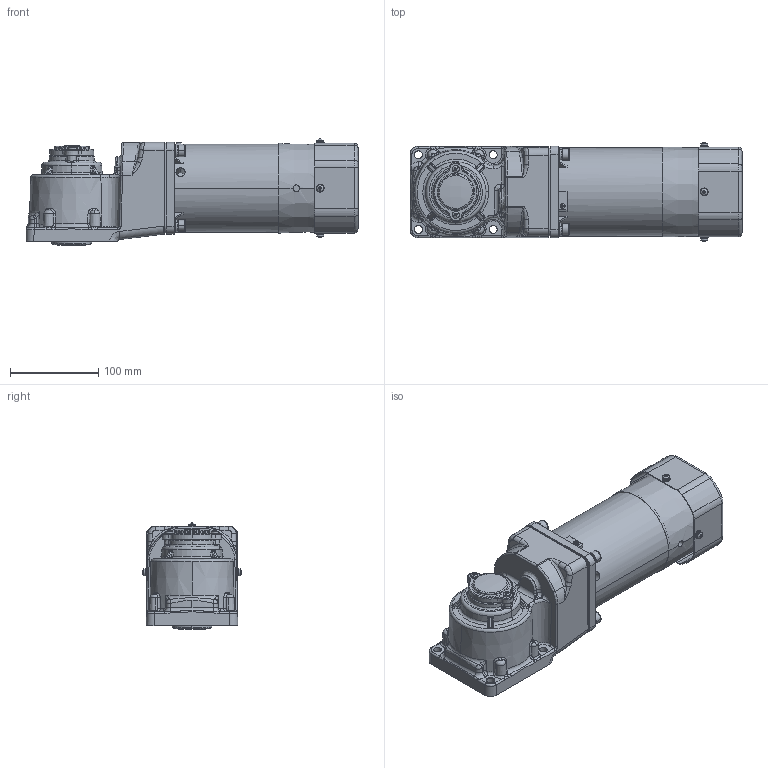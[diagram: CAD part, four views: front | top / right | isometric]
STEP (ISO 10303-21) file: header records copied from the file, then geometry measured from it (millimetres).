
FILE_DESCRIPTION (( 'STEP AP203' ), '1' );
FILE_NAME ('6RK120GU-CMF(6GU3RC-180RC)ÐÂ.STEP', '2023-07-07T04:46:03', ( 'Windows User' ), ( 'P R C' ), 'SwSTEP 2.0', 'SolidWorks 2019', '' );
FILE_SCHEMA (( 'CONFIG_CONTROL_DESIGN' ));
Length unit declared in the file: millimetre
Products named in the file (5): 100RC直角空心输出轴外形图; 6RK120GU-CMF(6GU3RC-180RC)陔; 6RK120GU-CMF(6GU3RC-180RC)陔(2)^6RK120GU-CMF(6GU3RC-180RC)陔; 6RK120GU-CMF(6GU3RC-180RC)__.STEP^6RK120GU-CMF(6GU3RC-180RC)ÐÂ(2)_6RK120GU-CMF(6GU3RC-180RC)ÐÂ; 6RK200GU-CMF.STEP^6RK120GU-CMF(6GU3RC-180RC)__.STEP_6RK120GU-CMF(6GU3RC-180RC)ÐÂ(2)_6RK120GU-CMF(6GU3RC-180RC)ÐÂ
Assembly tree (4 placements, depth 4):
  6RK120GU-CMF(6GU3RC-180RC)陔
    6RK120GU-CMF(6GU3RC-180RC)陔(2)^6RK120GU-CMF(6GU3RC-180RC)陔
      6RK120GU-CMF(6GU3RC-180RC)__.STEP^6RK120GU-CMF(6GU3RC-180RC)ÐÂ(2)_6RK120GU-CMF(6GU3RC-180RC)ÐÂ
        6RK200GU-CMF.STEP^6RK120GU-CMF(6GU3RC-180RC)__.STEP_6RK120GU-CMF(6GU3RC-180RC)ÐÂ(2)_6RK120GU-CMF(6GU3RC-180RC)ÐÂ
    100RC直角空心输出轴外形图
Bounding box: 376.98 x 111.91 x 120.46 mm (x, y, z)
Volume: 2723454.3 mm3; surface area: 303604.8 mm2
Topology: 33 solids, 43 shells, 2042 faces, 4966 edges, 3017 vertices
Faces by surface type: plane 634, cylinder 533, cone 354, bspline 335, torus 124, sphere 62
Entity records: 79831 total; most frequent: CARTESIAN_POINT 34861, ORIENTED_EDGE 9824, DIRECTION 8677, EDGE_CURVE 4912, AXIS2_PLACEMENT_3D 3421, VERTEX_POINT 3013, EDGE_LOOP 2175, FACE_OUTER_BOUND 2042
